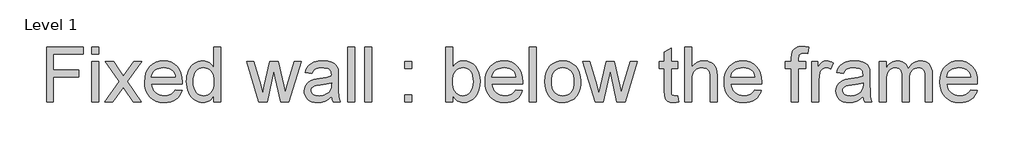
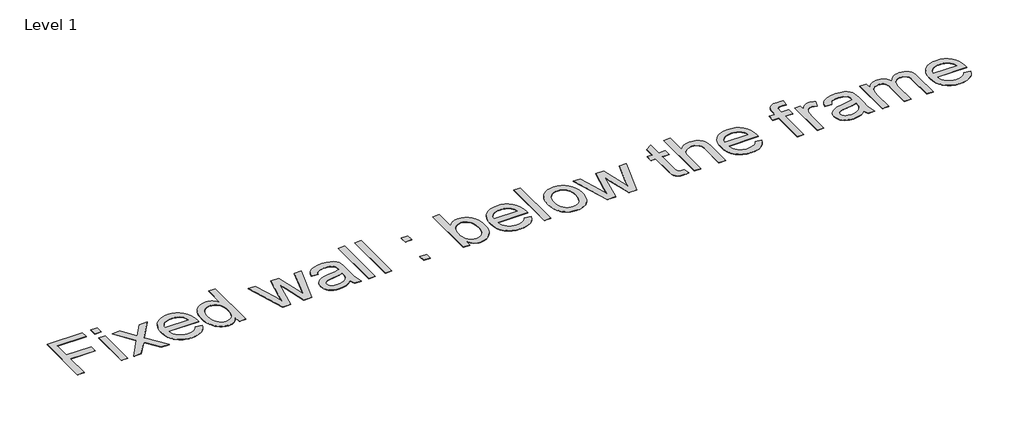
# One storey, part 32 of 80: 1 proxy.
"""IFC4 building model written with IfcOpenShell, lengths in millimetres."""

import ifcopenshell
import ifcopenshell.guid

model = None  # the IFC model being written
_history = None  # IfcOwnerHistory: only IFC2X3 demands one
_inside = {}  # id of a spatial element -> (the spatial element, [elements in it])
_under = {}  # id of a project, library or spatial element -> (it, [spatial elements below it])
_declared = {}  # id of a project -> (the project, [libraries it declares])
_typed = {}  # id of a type object -> (the type object, [elements of that type])
_made_of = {}  # id of a material, layer set ... -> (it, [elements and type objects made of it])


def new_model(schema):
    """Start an empty IFC model of exactly this schema.

    Asked for "IFC4X3", IfcOpenShell would pick the latest addendum, in which some entities
    have other attributes; the version numbers below select the first issue.
    IFC2X3 requires an IfcOwnerHistory on every rooted entity: one is made here for all.
    """
    global model, _history
    if schema == "IFC4X3":
        model = ifcopenshell.file(schema_version=(4, 3, 0, 0))
    else:
        model = ifcopenshell.file(schema=schema)
    _inside.clear()
    _under.clear()
    _declared.clear()
    _typed.clear()
    _made_of.clear()
    _history = None
    if model.schema == "IFC2X3":
        org = make("IfcOrganization", Name="unknown")
        user = make(
            "IfcPersonAndOrganization",
            ThePerson=make("IfcPerson", FamilyName="unknown"),
            TheOrganization=org,
        )
        app = make(
            "IfcApplication",
            ApplicationDeveloper=org,
            Version="unknown",
            ApplicationFullName="unknown",
            ApplicationIdentifier="unknown",
        )
        _history = make(
            "IfcOwnerHistory",
            OwningUser=user,
            OwningApplication=app,
            ChangeAction="ADDED",
            CreationDate=0,
        )
    return model


def make(cls, **values):
    """One entity of the class cls with the attributes given. An attribute that is None is left unset."""
    return model.create_entity(
        cls, **{name: value for name, value in values.items() if value is not None}
    )


def rooted(cls, **values):
    """An entity with a GlobalId (a new one), such as an element, a storey or a relation."""
    return make(cls, GlobalId=ifcopenshell.guid.new(), OwnerHistory=_history, **values)


def si_unit(unit_type, name, prefix=None):
    """IfcSIUnit, for example si_unit("LENGTHUNIT", "METRE", prefix="MILLI")."""
    return make("IfcSIUnit", UnitType=unit_type, Prefix=prefix, Name=name)


def assignment(units):
    """IfcUnitAssignment: the units of a project."""
    return None if units is None else make("IfcUnitAssignment", Units=units)


def point(xyz):
    """IfcCartesianPoint."""
    return None if xyz is None else make("IfcCartesianPoint", Coordinates=xyz)


def direction(xyz):
    """IfcDirection."""
    return None if xyz is None else make("IfcDirection", DirectionRatios=xyz)


def frame(location, z_axis=None, x_axis=None):
    """IfcAxis2Placement3D, a coordinate frame: its origin and axes. An axis left out is left unset."""
    return make(
        "IfcAxis2Placement3D",
        Location=point(location),
        Axis=direction(z_axis),
        RefDirection=direction(x_axis),
    )


def origin():
    """The frame at (0, 0, 0) with its axes left unset."""
    return frame((0.0, 0.0, 0.0))


def origin_with_axes():
    """The frame at (0, 0, 0) with the z axis (0, 0, 1) and the x axis (1, 0, 0) written out."""
    return frame((0.0, 0.0, 0.0), z_axis=(0.0, 0.0, 1.0), x_axis=(1.0, 0.0, 0.0))


def place(relative_to, where):
    """IfcLocalPlacement: puts the frame where relative to a parent placement (None: the world)."""
    return make(
        "IfcLocalPlacement", PlacementRelTo=relative_to, RelativePlacement=where
    )


def context(
    kind, dimensions, precision=None, world=None, true_north=None, identifier=None
):
    """IfcGeometricRepresentationContext, for example the 3D "Model" context."""
    return make(
        "IfcGeometricRepresentationContext",
        ContextIdentifier=identifier,
        ContextType=kind,
        CoordinateSpaceDimension=dimensions,
        Precision=precision,
        WorldCoordinateSystem=world,
        TrueNorth=true_north,
    )


def project(units=None, contexts=None):
    """IfcProject with its units and contexts."""
    return rooted(
        "IfcProject",
        Name="project",
        RepresentationContexts=contexts,
        UnitsInContext=assignment(units),
    )


def spatial(cls, under=None, at=None, **own):
    """A site, building, storey or space (cls), placed at a placement, below another one or the project."""
    s = rooted(cls, ObjectPlacement=at, **own)
    if under is not None:
        _under.setdefault(under.id(), (under, []))[1].append(s)
    return s


def polyline(points):
    """IfcPolyline through the points."""
    return make("IfcPolyline", Points=[point(p) for p in points])


def outline(outer, holes=None, kind="AREA"):
    """IfcArbitraryClosedProfileDef: a profile drawn as a closed curve; with holes, ...WithVoids."""
    if holes is None:
        return make("IfcArbitraryClosedProfileDef", ProfileType=kind, OuterCurve=outer)
    return make(
        "IfcArbitraryProfileDefWithVoids",
        ProfileType=kind,
        OuterCurve=outer,
        InnerCurves=holes,
    )


def extrude(swept, where, along, depth):
    """IfcExtrudedAreaSolid: the profile swept, set in the frame where, extruded along a direction by depth."""
    return make(
        "IfcExtrudedAreaSolid",
        SweptArea=swept,
        Position=where,
        ExtrudedDirection=direction(along),
        Depth=depth,
    )


def shape(context_of_items, identifier, shape_type, items):
    """IfcShapeRepresentation: the items that make up one representation, for example the "Body"."""
    return make(
        "IfcShapeRepresentation",
        ContextOfItems=context_of_items,
        RepresentationIdentifier=identifier,
        RepresentationType=shape_type,
        Items=items,
    )


def made_of(thing, what):
    """Note that an element or type object is made of a material, layer set ...; save() writes the relation."""
    if what is not None:
        _made_of.setdefault(what.id(), (what, []))[1].append(thing)
    return thing


def element(
    cls,
    number,
    at=None,
    inside=None,
    cuts=None,
    type_object=None,
    material=None,
    context=None,
    identifier="Body",
    shape_type=None,
    held_by="IfcProductDefinitionShape",
    body=None,
    shapes=None,
    **own,
):
    """One element of the class cls, such as IfcWall. Its Tag is "e" and its number.

    at: its placement. inside: the storey or other place that contains it. cuts: it is an
    opening in that element (IfcRelVoidsElement). A single representation is given by context,
    identifier, shape_type and body (its items); several are given by shapes. held_by: the class
    of the entity that holds the representations. save() writes the other relations.
    """
    e = rooted(cls, Tag="e%d" % number, ObjectPlacement=at, **own)
    if body is not None:
        shapes = [shape(context, identifier, shape_type, body)]
    if shapes is not None:
        e.Representation = make(held_by, Representations=shapes)
    if inside is not None:
        _inside.setdefault(inside.id(), (inside, []))[1].append(e)
    if cuts is not None:
        rooted(
            "IfcRelVoidsElement", RelatingBuildingElement=cuts, RelatedOpeningElement=e
        )
    if type_object is not None:
        _typed.setdefault(type_object.id(), (type_object, []))[1].append(e)
    return made_of(e, material)


def aggregate(whole, parts):
    """IfcRelAggregates: a whole, such as a stair, and the parts it consists of."""
    return rooted("IfcRelAggregates", RelatingObject=whole, RelatedObjects=parts)


def save(model, path):
    """Write the relations noted so far, then the file.

    IfcRelAggregates (storeys below a building ...), IfcRelContainedInSpatialStructure (elements
    in a storey), IfcRelDefinesByType, IfcRelAssociatesMaterial and IfcRelDeclares: one each for
    every whole, place, type object, material and project.
    """
    for whole, parts in _under.values():
        aggregate(whole, parts)
    for where, things in _inside.values():
        rooted(
            "IfcRelContainedInSpatialStructure",
            RelatedElements=things,
            RelatingStructure=where,
        )
    for kind, things in _typed.values():
        rooted("IfcRelDefinesByType", RelatedObjects=things, RelatingType=kind)
    for what, things in _made_of.values():
        rooted("IfcRelAssociatesMaterial", RelatedObjects=things, RelatingMaterial=what)
    for by, libraries in _declared.values():
        rooted("IfcRelDeclares", RelatingContext=by, RelatedDefinitions=libraries)
    model.write(path)


model = new_model("IFC4")

# Units and contexts
model_context = context("Model", 3, world=origin())
ifc_project = project(units=[si_unit("LENGTHUNIT", "METRE", prefix="MILLI")], contexts=[model_context])

# Site, building, storey
site = spatial("IfcSite", under=ifc_project)
building = spatial("IfcBuilding", under=site)
storey = spatial("IfcBuildingStorey", under=building, Name="Level 1", Elevation=0.0)

# Proxy
placement = place(None, origin())
element("IfcBuildingElementProxy", 1, Name="800mm Arial", ObjectType="800mm Arial", at=placement, inside=storey, context=model_context, shape_type="SweptSolid", body=[
    extrude(outline(polyline([(378274.7728809, -25390.2605409), (378274.7728809, -24590.8718426), (378811.8621626, -24590.8718426), (378811.8621626, -24690.7954299), (378374.6964682, -24690.7954299), (378374.6964682, -24928.1139497), (378749.4099205, -24928.1139497), (378749.4099205, -25028.037537), (378374.6964682, -25028.037537), (378374.6964682, -25390.2605409), (378274.7728809, -25390.2605409)])), origin_with_axes(), (0.0, 0.0, 1.0), 5.0),
    extrude(outline(polyline([(378936.7666467, -24690.7954299), (378936.7666467, -24590.8718426), (379036.690234, -24590.8718426), (379036.690234, -24690.7954299), (378936.7666467, -24690.7954299)])), origin_with_axes(), (0.0, 0.0, 1.0), 5.0),
    extrude(outline(polyline([(378936.7666467, -25390.2605409), (378936.7666467, -24803.2094656), (379036.690234, -24803.2094656), (379036.690234, -25390.2605409), (378936.7666467, -25390.2605409)])), origin_with_axes(), (0.0, 0.0, 1.0), 5.0),
    extrude(outline(polyline([(379124.1233729, -25390.2605409), (379337.6319754, -25095.1736972), (379136.6138213, -24803.2094656), (379256.8343872, -24803.2094656), (379353.8305257, -24943.7270102), (379399.1084012, -25010.0825174), (379438.3362157, -24955.8271321), (379548.7986189, -24803.2094656), (379669.0191848, -24803.2094656), (379457.8525414, -25095.1736972), (379661.2126546, -25390.2605409), (379540.9920886, -25390.2605409), (379418.6247268, -25212.8571408), (379396.1809523, -25180.4600402), (379244.3439388, -25390.2605409), (379124.1233729, -25390.2605409)])), origin_with_axes(), (0.0, 0.0, 1.0), 5.0),
    extrude(outline(polyline([(380159.6596115, -25215.3942631), (380257.6315662, -25227.8847116), (380242.6100943, -25267.1247238), (380222.3314122, -25301.7052133), (380196.7955199, -25331.6261801), (380166.0024173, -25356.8876241), (380130.2692448, -25376.9528464), (380089.9131427, -25391.285148), (380044.934111, -25399.884529), (379995.3321496, -25402.7509893), (379933.3312226, -25397.8048205), (379878.0878233, -25382.9663142), (379829.6019518, -25358.2354703), (379787.873608, -25323.6122888), (379754.3177256, -25280.0603884), (379730.3492382, -25228.5433875), (379715.9681457, -25169.0612863), (379711.1744482, -25101.6140846), (379716.0169365, -25031.8798136), (379730.5444014, -24970.4155855), (379754.7568429, -24917.2214004), (379770.4949299, -24893.725574), (379788.654261, -24872.2972583), (379830.2728255, -24836.6067778), (379877.6487059, -24811.1135774), (379930.7819025, -24795.8176572), (379989.6724151, -24790.7190172), (380046.6661849, -24795.8054595), (380098.2075811, -24811.0647866), (380144.2966039, -24836.4969985), (380184.9332532, -24872.1020951), (380218.1049079, -24916.9286555), (380241.798947, -24970.025259), (380256.0153705, -25031.3919054), (380260.7541783, -25101.0285949), (380260.1686886, -25127.9611243), (379811.0980355, -25127.9611243), (379816.8858458, -25167.8354171), (379828.3943791, -25202.7574423), (379845.6236353, -25232.7271999), (379868.5736145, -25257.7446898), (379895.9757555, -25277.4683764), (379926.5614971, -25291.556724), (379960.3308393, -25300.0097325), (379997.2837821, -25302.827402), (380050.4657695, -25297.6067849), (380095.2557369, -25281.9449336), (380114.503713, -25269.954591), (380131.6536842, -25254.8660318), (380146.7056503, -25236.6792558), (380159.6596115, -25215.3942631)]), holes=[polyline([(379811.0980355, -25028.037537), (380160.830591, -25028.037537), (380155.6953578, -24999.7632602), (380147.3155355, -24975.2458761), (380135.6911241, -24954.4853847), (380120.8221235, -24937.481786), (380093.5724538, -24916.9896441), (380062.5658914, -24902.3523998), (380027.8024364, -24893.5700533), (379989.2820886, -24890.6426044), (379954.1466036, -24892.9784647), (379921.9263698, -24899.9860453), (379892.621387, -24911.6653465), (379866.2316554, -24928.0163681), (379844.0867247, -24948.2828525), (379827.5161445, -24971.7085421), (379816.5199147, -24998.2934369), (379811.0980355, -25028.037537)])]), origin_with_axes(), (0.0, 0.0, 1.0), 5.0),
    extrude(outline(polyline([(380722.9007696, -25390.2605409), (380722.9007696, -25295.9966881), (380693.0041982, -25342.7016949), (380675.6865086, -25361.0500904), (380656.7892164, -25376.062414), (380636.3123216, -25387.7386657), (380614.2558242, -25396.0788455), (380590.6197242, -25401.0829534), (380565.4040216, -25402.7509893), (380532.4214313, -25400.335844), (380500.8049837, -25393.0904081), (380470.554679, -25381.0146816), (380441.670517, -25364.1086645), (380415.0551279, -25342.8785616), (380391.6111418, -25317.8305774), (380371.3385585, -25288.964712), (380354.2373782, -25256.2809654), (380340.6613341, -25220.4014204), (380330.9641598, -25181.9481601), (380325.1458552, -25140.9211843), (380323.2064204, -25097.320493), (380324.9933839, -25054.5187513), (380330.3542746, -25013.7418284), (380339.2890925, -24974.9897243), (380351.7978374, -24938.262439), (380367.8744107, -24904.6333704), (380387.5127134, -24875.1759164), (380410.7127455, -24849.890077), (380437.474507, -24828.7758522), (380466.852676, -24812.1259868), (380497.9019303, -24800.2332259), (380530.62227, -24793.0975693), (380565.0136951, -24790.7190172), (380590.1653598, -24792.4205968), (380613.9020908, -24797.5253357), (380636.2238883, -24806.0332339), (380657.1307521, -24817.9442914), (380693.7726535, -24849.2435987), (380722.9007696, -24888.6909719), (380722.9007696, -24590.8718426), (380822.8243568, -24590.8718426), (380822.8243568, -25390.2605409), (380722.9007696, -25390.2605409)]), holes=[polyline([(380423.1300077, -25096.9301665), (380425.9476772, -25145.3855438), (380434.4006857, -25187.3151496), (380448.4890333, -25222.7189841), (380468.2127199, -25251.5970472), (380491.7664854, -25274.0103274), (380517.3450697, -25290.0198133), (380544.9484728, -25299.6255049), (380574.5766947, -25302.827402), (380604.3451901, -25299.7718773), (380631.7839242, -25290.6053031), (380656.8928969, -25275.3276794), (380679.6721083, -25253.9390063), (380698.5846476, -25226.2685158), (380712.0936042, -25192.1454402), (380720.1989782, -25151.5697794), (380722.9007696, -25104.5415335), (380720.1501874, -25052.9818407), (380711.898441, -25008.7651654), (380698.1455302, -24971.8915076), (380678.8914552, -24942.3608674), (380655.612138, -24919.7341274), (380629.7835008, -24903.5721702), (380601.4055436, -24893.8749959), (380570.4782663, -24890.6426044), (380540.2645546, -24893.74692), (380512.6611516, -24903.0598666), (380487.668057, -24918.5814444), (380465.2852711, -24940.3116532), (380446.8423433, -24968.7262036), (380433.6688235, -25004.3008059), (380425.7647116, -25047.0354602), (380423.1300077, -25096.9301665)])]), origin_with_axes(), (0.0, 0.0, 1.0), 5.0),
    extrude(outline(polyline([(381382.357413, -25390.2605409), (381203.7830334, -24803.2094656), (381307.6098858, -24803.2094656), (381408.8996159, -25145.7209806), (381439.1499207, -25268.0883424), (381463.9356542, -25150.2097355), (381544.5380791, -24803.2094656), (381663.5876656, -24803.2094656), (381743.7997639, -25149.2339192), (381765.8532119, -25255.9882205), (381797.4696595, -25143.3790215), (381898.9545528, -24803.2094656), (382003.1717317, -24803.2094656), (381823.2312093, -25390.2605409), (381702.4251536, -25390.2605409), (381625.7259938, -25045.9925566), (381603.4773826, -24938.6527655), (381504.5296116, -25390.2605409), (381382.357413, -25390.2605409)])), origin_with_axes(), (0.0, 0.0, 1.0), 5.0),
    extrude(outline(polyline([(382446.5826504, -25315.3178504), (382398.8408387, -25356.2533435), (382374.4393328, -25371.415089), (382349.6840935, -25383.0395004), (382297.990226, -25397.8231171), (382242.6370474, -25402.7509893), (382198.1459238, -25399.7869474), (382159.131569, -25390.8948215), (382125.5939832, -25376.0746117), (382097.5331662, -25355.326318), (382075.3760378, -25329.9672924), (382059.5495174, -25301.3148868), (382050.0536052, -25269.3691013), (382046.8883012, -25234.1299358), (382051.669801, -25192.7065346), (382066.0143003, -25155.0888169), (382088.1409345, -25122.8868796), (382116.2688388, -25097.7108195), (382149.3246154, -25078.682402), (382186.2348663, -25064.9233924), (382272.6921889, -25049.8958217), (382374.8601536, -25034.0875979), (382445.9971606, -25015.5470886), (382446.5826504, -24993.2984773), (382444.8627742, -24969.0738381), (382439.7031456, -24948.7036732), (382431.1037646, -24932.1879827), (382419.0646312, -24919.5267664), (382398.255349, -24906.8899455), (382372.9085211, -24897.8636449), (382343.0241474, -24892.4478646), (382308.6022281, -24890.6426044), (382249.0774348, -24895.4484996), (382226.0481706, -24901.4558686), (382207.5076612, -24909.8661852), (382192.2727295, -24921.3381254), (382179.1601982, -24936.5303651), (382168.1700674, -24955.4429044), (382159.3023369, -24978.0757433), (382059.3787496, -24965.5852949), (382076.723884, -24910.9395831), (382088.5983484, -24888.0079005), (382102.6074109, -24868.0036667), (382119.3548578, -24850.5243575), (382139.4444755, -24835.1674488), (382162.876264, -24821.9329405), (382189.6502233, -24810.8208326), (382251.0534628, -24795.744471), (382321.483003, -24790.7190172), (382389.0338851, -24795.1589812), (382442.5818036, -24808.4788735), (382482.9562023, -24828.5075027), (382510.986525, -24853.0736776), (382529.5758252, -24883.4459594), (382541.6271562, -24920.8929092), (382545.2864673, -24955.4368056), (382546.5062376, -25008.3260481), (382546.5062376, -25132.6450424), (382547.7747988, -25240.9362543), (382551.5804823, -25306.242759), (382559.0942677, -25349.15428), (382571.4871345, -25390.2605409), (382471.5635472, -25390.2605409), (382455.5601601, -25355.5214813), (382446.5826504, -25315.3178504)]), holes=[polyline([(382446.5826504, -25115.4706759), (382379.4464901, -25132.1083435), (382285.3778005, -25146.1113071), (382233.5375606, -25153.7714649), (382199.4083861, -25162.3098574), (382177.0377978, -25173.3853722), (382160.4733164, -25188.656897), (382150.2272455, -25206.9534523), (382146.8118885, -25227.1040585), (382148.6720383, -25242.6317351), (382154.2524876, -25256.8176643), (382163.5532366, -25269.6618461), (382176.5742851, -25281.1642806), (382193.1936561, -25290.6418962), (382213.2893727, -25297.4116217), (382263.9098423, -25302.827402), (382317.5797379, -25296.8505273), (382342.0727265, -25289.3794339), (382365.0044092, -25278.9199031), (382403.4515707, -25252.4996773), (382430.1889368, -25221.0539976), (382442.0451046, -25188.656897), (382445.9971606, -25143.769348), (382446.5826504, -25115.4706759)])]), origin_with_axes(), (0.0, 0.0, 1.0), 5.0),
    extrude(outline(polyline([(382683.9011702, -25390.2605409), (382683.9011702, -24590.8718426), (382783.8247575, -24590.8718426), (382783.8247575, -25390.2605409), (382683.9011702, -25390.2605409)])), origin_with_axes(), (0.0, 0.0, 1.0), 5.0),
    extrude(outline(polyline([(382933.7101384, -25390.2605409), (382933.7101384, -24590.8718426), (383033.6337257, -24590.8718426), (383033.6337257, -25390.2605409), (382933.7101384, -25390.2605409)])), origin_with_axes(), (0.0, 0.0, 1.0), 5.0),
    extrude(outline(polyline([(383520.7612138, -24903.1330529), (383520.7612138, -24803.2094656), (383620.684801, -24803.2094656), (383620.684801, -24903.1330529), (383520.7612138, -24903.1330529)])), origin_with_axes(), (0.0, 0.0, 1.0), 5.0),
    extrude(outline(polyline([(383520.7612138, -25390.2605409), (383520.7612138, -25290.3369536), (383620.684801, -25290.3369536), (383620.684801, -25390.2605409), (383520.7612138, -25390.2605409)])), origin_with_axes(), (0.0, 0.0, 1.0), 5.0),
    extrude(outline(polyline([(384220.2263248, -25390.2605409), (384120.3027375, -25390.2605409), (384120.3027375, -24590.8718426), (384220.2263248, -24590.8718426), (384220.2263248, -24887.3248291), (384253.0869381, -24845.0597864), (384290.1923522, -24814.8704701), (384310.3368596, -24804.3042095), (384331.5425672, -24796.7568804), (384377.137583, -24790.7190172), (384428.6118919, -24796.1591929), (384477.2563335, -24812.4797202), (384520.2898316, -24838.655992), (384554.9313096, -24873.6634011), (384582.0833976, -24917.1604119), (384602.6487258, -24968.8054886), (384615.6026869, -25026.4518355), (384619.920674, -25087.9526567), (384615.4502156, -25158.9188958), (384602.0388406, -25221.3467425), (384579.6865489, -25275.2361966), (384548.3933405, -25320.5872584), (384510.8305125, -25356.5338907), (384469.6693619, -25382.2100566), (384424.9098888, -25397.6157561), (384376.5520932, -25402.7509893), (384352.3366023, -25401.0951511), (384329.4567599, -25396.1276363), (384307.912566, -25387.848445), (384287.7040207, -25376.2575773), (384268.8311239, -25361.355033), (384251.2938757, -25343.1408122), (384220.2263248, -25296.7773411), (384220.2263248, -25390.2605409)]), holes=[polyline([(384220.2263248, -25092.6365749), (384221.9340033, -25137.6704963), (384227.0570388, -25175.9712853), (384235.5954312, -25207.5389421), (384247.5491807, -25232.3734665), (384271.7616222, -25263.1970633), (384299.9017242, -25285.2139181), (384331.9694868, -25298.4240311), (384367.9649099, -25302.827402), (384397.8492836, -25299.5828129), (384425.6356522, -25289.8490455), (384451.3240158, -25273.6260998), (384474.9143744, -25250.9139758), (384494.638061, -25221.7736621), (384508.7264086, -25186.2661471), (384517.1794172, -25144.3914309), (384519.9970867, -25096.1495135), (384517.2952953, -25046.9927683), (384509.1899214, -25004.7155278), (384495.6809647, -24969.3177922), (384476.7684254, -24940.7995613), (384454.0258072, -24918.8558927), (384429.0266138, -24903.1818437), (384401.7708452, -24893.7774143), (384372.2585016, -24890.6426044), (384342.3741279, -24893.8871936), (384314.5877593, -24903.620961), (384288.8993957, -24919.8439067), (384265.309037, -24942.5560307), (384245.5853504, -24971.4035995), (384231.4970029, -25006.0328798), (384223.0439943, -25046.4438716), (384220.2263248, -25092.6365749)])]), origin_with_axes(), (0.0, 0.0, 1.0), 5.0),
    extrude(outline(polyline([(385143.3485277, -25215.3942631), (385241.3204824, -25227.8847116), (385226.2990106, -25267.1247238), (385206.0203284, -25301.7052133), (385180.4844361, -25331.6261801), (385149.6913336, -25356.8876241), (385113.9581611, -25376.9528464), (385073.602059, -25391.285148), (385028.6230272, -25399.884529), (384979.0210658, -25402.7509893), (384917.0201388, -25397.8048205), (384861.7767395, -25382.9663142), (384813.290868, -25358.2354703), (384771.5625242, -25323.6122888), (384738.0066418, -25280.0603884), (384714.0381544, -25228.5433875), (384699.6570619, -25169.0612863), (384694.8633644, -25101.6140846), (384699.7058527, -25031.8798136), (384714.2333176, -24970.4155855), (384738.4457591, -24917.2214004), (384754.1838461, -24893.725574), (384772.3431772, -24872.2972583), (384813.9617417, -24836.6067778), (384861.3376222, -24811.1135774), (384914.4708187, -24795.8176572), (384973.3613314, -24790.7190172), (385030.3551011, -24795.8054595), (385081.8964974, -24811.0647866), (385127.9855201, -24836.4969985), (385168.6221694, -24872.1020951), (385201.7938242, -24916.9286555), (385225.4878633, -24970.025259), (385239.7042867, -25031.3919054), (385244.4430946, -25101.0285949), (385243.8576048, -25127.9611243), (384794.7869517, -25127.9611243), (384800.5747621, -25167.8354171), (384812.0832953, -25202.7574423), (384829.3125516, -25232.7271999), (384852.2625308, -25257.7446898), (384879.6646717, -25277.4683764), (384910.2504133, -25291.556724), (384944.0197555, -25300.0097325), (384980.9726984, -25302.827402), (385034.1546857, -25297.6067849), (385078.9446531, -25281.9449336), (385098.1926293, -25269.954591), (385115.3426004, -25254.8660318), (385130.3945666, -25236.6792558), (385143.3485277, -25215.3942631)]), holes=[polyline([(384794.7869517, -25028.037537), (385144.5195073, -25028.037537), (385139.3842741, -24999.7632602), (385131.0044517, -24975.2458761), (385119.3800403, -24954.4853847), (385104.5110397, -24937.481786), (385077.26137, -24916.9896441), (385046.2548076, -24902.3523998), (385011.4913526, -24893.5700533), (384972.9710049, -24890.6426044), (384937.8355198, -24892.9784647), (384905.615286, -24899.9860453), (384876.3103033, -24911.6653465), (384849.9205717, -24928.0163681), (384827.7756409, -24948.2828525), (384811.2050607, -24971.7085421), (384800.208831, -24998.2934369), (384794.7869517, -25028.037537)])]), origin_with_axes(), (0.0, 0.0, 1.0), 5.0),
    extrude(outline(polyline([(385344.3666818, -25390.2605409), (385344.3666818, -24590.8718426), (385444.2902691, -24590.8718426), (385444.2902691, -25390.2605409), (385344.3666818, -25390.2605409)])), origin_with_axes(), (0.0, 0.0, 1.0), 5.0),
    extrude(outline(polyline([(385569.1947533, -25096.7350032), (385574.5983359, -25020.7067172), (385581.3528142, -24986.6354818), (385590.8090839, -24955.1928515), (385602.9671449, -24926.3788264), (385617.8269972, -24900.1934063), (385635.3886409, -24876.6365914), (385655.6520759, -24855.7083815), (385693.7333063, -24827.2755346), (385735.7665926, -24806.9663582), (385781.7519349, -24794.7808524), (385831.6893332, -24790.7190172), (385886.8168542, -24795.6651859), (385936.6627697, -24810.5036923), (385981.2270795, -24835.2345362), (386020.5097837, -24869.8577176), (386052.5714475, -24913.2022571), (386075.4726358, -24964.0971751), (386089.2133489, -25022.5424715), (386093.7935865, -25088.5381465), (386091.7687678, -25142.0250764), (386085.6943114, -25189.4863409), (386075.5702175, -25230.9219397), (386061.396486, -25266.3318731), (386043.3499836, -25296.9176147), (386021.6075771, -25323.8806383), (385996.1692664, -25347.220944), (385967.0350515, -25366.9385318), (385935.3393189, -25382.6064819), (385902.2164549, -25393.7978749), (385867.6664597, -25400.5127107), (385831.6893332, -25402.7509893), (385775.7567636, -25397.8231171), (385725.4473354, -25383.0395004), (385680.7610486, -25358.4001393), (385641.697903, -25323.9050337), (385609.977775, -25280.1396735), (385587.3205407, -25227.6895483), (385573.7262001, -25166.5546582), (385569.1947533, -25096.7350032)]), holes=[polyline([(385669.1183405, -25096.53984), (385672.0091963, -25145.0074149), (385680.6817635, -25186.9736139), (385695.1360422, -25222.4384369), (385715.3720323, -25251.401884), (385739.986998, -25273.9005481), (385767.5782034, -25289.9710225), (385798.1456485, -25299.6133071), (385831.6893332, -25302.827402), (385865.06225, -25299.5950106), (385895.507718, -25289.8978363), (385923.0257372, -25273.7358791), (385947.6163075, -25251.1091391), (385967.8522976, -25221.859046), (385982.3065763, -25185.8270298), (385990.9791435, -25143.0130904), (385993.8699992, -25093.4172279), (385990.960847, -25046.4865636), (385982.2333901, -25005.6181579), (385967.6876286, -24970.8120109), (385947.3235626, -24942.0681225), (385922.6415095, -24919.5694584), (385895.1417869, -24903.498984), (385864.8243948, -24893.8566993), (385831.6893332, -24890.6426044), (385798.1456485, -24893.8445016), (385767.5782034, -24903.4501931), (385739.986998, -24919.459679), (385715.3720323, -24941.8729593), (385695.1360422, -24970.7510224), (385680.6817635, -25006.1548568), (385672.0091963, -25048.0844627), (385669.1183405, -25096.53984)])]), origin_with_axes(), (0.0, 0.0, 1.0), 5.0),
    extrude(outline(polyline([(386303.5940872, -25390.2605409), (386125.0197076, -24803.2094656), (386228.84656, -24803.2094656), (386330.1362901, -25145.7209806), (386360.3865948, -25268.0883424), (386385.1723284, -25150.2097355), (386465.7747533, -24803.2094656), (386584.8243397, -24803.2094656), (386665.0364381, -25149.2339192), (386687.0898861, -25255.9882205), (386718.7063336, -25143.3790215), (386820.191227, -24803.2094656), (386924.4084059, -24803.2094656), (386744.4678835, -25390.2605409), (386623.6618277, -25390.2605409), (386546.962668, -25045.9925566), (386524.7140567, -24938.6527655), (386425.7662857, -25390.2605409), (386303.5940872, -25390.2605409)])), origin_with_axes(), (0.0, 0.0, 1.0), 5.0),
    extrude(outline(polyline([(387517.7047055, -25306.9258304), (387530.1951539, -25393.1879898), (387490.6258036, -25400.3602394), (387455.4476267, -25402.7509893), (387407.4862564, -25398.6037701), (387371.7225896, -25386.1621125), (387346.4489479, -25366.9873226), (387329.9576528, -25342.6407063), (387320.8825613, -25300.8269786), (387317.8575309, -25229.2508544), (387317.8575309, -24903.1330529), (387242.9148404, -24903.1330529), (387242.9148404, -24803.2094656), (387317.8575309, -24803.2094656), (387317.8575309, -24660.5451251), (387417.7811182, -24601.8009849), (387417.7811182, -24803.2094656), (387517.7047055, -24803.2094656), (387517.7047055, -24903.1330529), (387417.7811182, -24903.1330529), (387417.7811182, -25226.3234055), (387419.0984701, -25259.2084142), (387423.0505261, -25277.8465052), (387429.9544263, -25288.1657624), (387440.127311, -25296.0942697), (387454.5449966, -25301.1441189), (387474.1832993, -25302.827402), (387517.7047055, -25306.9258304)])), origin_with_axes(), (0.0, 0.0, 1.0), 5.0),
    extrude(outline(polyline([(387617.6282928, -25390.2605409), (387617.6282928, -24590.8718426), (387717.55188, -24590.8718426), (387717.55188, -24884.7877068), (387754.25477, -24843.6326551), (387795.4708102, -24814.2361896), (387841.2000007, -24796.5983103), (387891.4423415, -24790.7190172), (387922.6806603, -24792.3230152), (387951.7965786, -24797.1350092), (387978.7900965, -24805.1549993), (388003.661214, -24816.3829854), (388025.7756505, -24830.4408387), (388044.4991254, -24846.9504304), (388059.8316387, -24865.9117605), (388071.7731905, -24887.3248291), (388080.7385026, -24912.5130869), (388087.1422969, -24942.7999847), (388092.2653324, -25018.6697007), (388092.2653324, -25390.2605409), (387992.3417451, -25390.2605409), (387992.3417451, -25029.0133533), (387990.3535194, -24995.2745053), (387984.3888424, -24966.4635296), (387974.447714, -24942.5804261), (387960.5301343, -24923.6251948), (387942.9654412, -24909.1953115), (387922.0829728, -24898.888252), (387897.882729, -24892.7040163), (387870.3647098, -24890.6426044), (387828.1362602, -24896.2047573), (387788.4937238, -24912.8912157), (387770.6972743, -24925.0035353), (387755.6575059, -24939.0918829), (387743.3744184, -24955.1562584), (387733.848012, -24973.1966619), (387721.625913, -25018.5233282), (387717.55188, -25078.3896571), (387717.55188, -25390.2605409), (387617.6282928, -25390.2605409)])), origin_with_axes(), (0.0, 0.0, 1.0), 5.0),
    extrude(outline(polyline([(388640.674083, -25215.3942631), (388738.6460377, -25227.8847116), (388723.6245658, -25267.1247238), (388703.3458837, -25301.7052133), (388677.8099914, -25331.6261801), (388647.0168888, -25356.8876241), (388611.2837163, -25376.9528464), (388570.9276142, -25391.285148), (388525.9485824, -25399.884529), (388476.3466211, -25402.7509893), (388414.345694, -25397.8048205), (388359.1022947, -25382.9663142), (388310.6164232, -25358.2354703), (388268.8880795, -25323.6122888), (388235.3321971, -25280.0603884), (388211.3637096, -25228.5433875), (388196.9826172, -25169.0612863), (388192.1889197, -25101.6140846), (388197.031408, -25031.8798136), (388211.5588729, -24970.4155855), (388235.7713144, -24917.2214004), (388251.5094014, -24893.725574), (388269.6687325, -24872.2972583), (388311.2872969, -24836.6067778), (388358.6631774, -24811.1135774), (388411.796374, -24795.8176572), (388470.6868866, -24790.7190172), (388527.6806563, -24795.8054595), (388579.2220526, -24811.0647866), (388625.3110754, -24836.4969985), (388665.9477247, -24872.1020951), (388699.1193794, -24916.9286555), (388722.8134185, -24970.025259), (388737.029842, -25031.3919054), (388741.7686498, -25101.0285949), (388741.18316, -25127.9611243), (388292.112507, -25127.9611243), (388297.9003173, -25167.8354171), (388309.4088506, -25202.7574423), (388326.6381068, -25232.7271999), (388349.588086, -25257.7446898), (388376.990227, -25277.4683764), (388407.5759686, -25291.556724), (388441.3453108, -25300.0097325), (388478.2982536, -25302.827402), (388531.480241, -25297.6067849), (388576.2702083, -25281.9449336), (388595.5181845, -25269.954591), (388612.6681557, -25254.8660318), (388627.7201218, -25236.6792558), (388640.674083, -25215.3942631)]), holes=[polyline([(388292.112507, -25028.037537), (388641.8450625, -25028.037537), (388636.7098293, -24999.7632602), (388628.330007, -24975.2458761), (388616.7055955, -24954.4853847), (388601.8365949, -24937.481786), (388574.5869253, -24916.9896441), (388543.5803629, -24902.3523998), (388508.8169078, -24893.5700533), (388470.2965601, -24890.6426044), (388435.1610751, -24892.9784647), (388402.9408412, -24899.9860453), (388373.6358585, -24911.6653465), (388347.2461269, -24928.0163681), (388325.1011962, -24948.2828525), (388308.5306159, -24971.7085421), (388297.5343862, -24998.2934369), (388292.112507, -25028.037537)])]), origin_with_axes(), (0.0, 0.0, 1.0), 5.0),
    extrude(outline(polyline([(389178.9343442, -25390.2605409), (389178.9343442, -24903.1330529), (389091.5012053, -24903.1330529), (389091.5012053, -24803.2094656), (389178.9343442, -24803.2094656), (389178.9343442, -24744.0749989), (389181.5690482, -24695.1378123), (389189.47316, -24660.7402884), (389198.157925, -24643.2609792), (389209.5749755, -24627.513744), (389240.6059332, -24601.2154952), (389260.5857716, -24591.225576), (389284.0297578, -24584.0899194), (389310.9378918, -24579.8085255), (389341.3101736, -24578.3813942), (389384.6852073, -24581.1136797), (389432.4514143, -24589.3105365), (389417.8141701, -24682.9888996), (389360.2410094, -24678.3049814), (389322.2573606, -24682.4522006), (389308.1507165, -24687.6362246), (389297.3008592, -24694.8938582), (389289.2320783, -24704.9813591), (389283.4686634, -24718.6549847), (389278.8579315, -24756.7606105), (389278.8579315, -24803.2094656), (389391.2719672, -24803.2094656), (389391.2719672, -24903.1330529), (389278.8579315, -24903.1330529), (389278.8579315, -25390.2605409), (389178.9343442, -25390.2605409)])), origin_with_axes(), (0.0, 0.0, 1.0), 5.0),
    extrude(outline(polyline([(389478.7051061, -25390.2605409), (389478.7051061, -24803.2094656), (389566.138245, -24803.2094656), (389566.138245, -24890.0571147), (389598.4377639, -24839.7049945), (389613.6361025, -24822.2866739), (389628.2001605, -24810.0401795), (389658.0601387, -24795.5493077), (389690.6524026, -24790.7190172), (389715.4381361, -24792.6462543), (389740.419033, -24798.4279658), (389765.595093, -24808.0641516), (389790.9663164, -24821.5548117), (389757.5933995, -24911.1347464), (389722.4640134, -24895.7656399), (389687.3346272, -24890.6426044), (389657.4990444, -24895.5704767), (389630.8348645, -24910.3540933), (389609.29372, -24933.8712657), (389594.8272437, -24964.9998051), (389582.6783309, -25020.8164965), (389578.6286934, -25081.7074325), (389578.6286934, -25390.2605409), (389478.7051061, -25390.2605409)])), origin_with_axes(), (0.0, 0.0, 1.0), 5.0),
    extrude(outline(polyline([(390228.1320108, -25315.3178504), (390180.3901992, -25356.2533435), (390155.9886933, -25371.415089), (390131.233454, -25383.0395004), (390079.5395864, -25397.8231171), (390024.1864078, -25402.7509893), (389979.6952842, -25399.7869474), (389940.6809295, -25390.8948215), (389907.1433436, -25376.0746117), (389879.0825266, -25355.326318), (389856.9253982, -25329.9672924), (389841.0988779, -25301.3148868), (389831.6029657, -25269.3691013), (389828.4376616, -25234.1299358), (389833.2191614, -25192.7065346), (389847.5636607, -25155.0888169), (389869.6902949, -25122.8868796), (389897.8181993, -25097.7108195), (389930.8739758, -25078.682402), (389967.7842267, -25064.9233924), (390054.2415493, -25049.8958217), (390156.409514, -25034.0875979), (390227.546521, -25015.5470886), (390228.1320108, -24993.2984773), (390226.4121346, -24969.0738381), (390221.252506, -24948.7036732), (390212.653125, -24932.1879827), (390200.6139916, -24919.5267664), (390179.8047094, -24906.8899455), (390154.4578815, -24897.8636449), (390124.5735078, -24892.4478646), (390090.1515885, -24890.6426044), (390030.6267953, -24895.4484996), (390007.597531, -24901.4558686), (389989.0570216, -24909.8661852), (389973.8220899, -24921.3381254), (389960.7095587, -24936.5303651), (389949.7194278, -24955.4429044), (389940.8516973, -24978.0757433), (389840.92811, -24965.5852949), (389858.2732444, -24910.9395831), (389870.1477088, -24888.0079005), (389884.1567713, -24868.0036667), (389900.9042183, -24850.5243575), (389920.993836, -24835.1674488), (389944.4256244, -24821.9329405), (389971.1995837, -24810.8208326), (390032.6028232, -24795.744471), (390103.0323634, -24790.7190172), (390170.5832455, -24795.1589812), (390224.131164, -24808.4788735), (390264.5055627, -24828.5075027), (390292.5358854, -24853.0736776), (390311.1251856, -24883.4459594), (390323.1765167, -24920.8929092), (390326.8358277, -24955.4368056), (390328.0555981, -25008.3260481), (390328.0555981, -25132.6450424), (390329.3241592, -25240.9362543), (390333.1298427, -25306.242759), (390340.6436281, -25349.15428), (390353.0364949, -25390.2605409), (390253.1129076, -25390.2605409), (390237.1095206, -25355.5214813), (390228.1320108, -25315.3178504)]), holes=[polyline([(390228.1320108, -25115.4706759), (390160.9958506, -25132.1083435), (390066.927161, -25146.1113071), (390015.086921, -25153.7714649), (389980.9577465, -25162.3098574), (389958.5871582, -25173.3853722), (389942.0226768, -25188.656897), (389931.7766059, -25206.9534523), (389928.3612489, -25227.1040585), (389930.2213987, -25242.6317351), (389935.801848, -25256.8176643), (389945.102597, -25269.6618461), (389958.1236455, -25281.1642806), (389974.7430166, -25290.6418962), (389994.8387331, -25297.4116217), (390045.4592028, -25302.827402), (390099.1290983, -25296.8505273), (390123.622087, -25289.3794339), (390146.5537696, -25278.9199031), (390185.0009311, -25252.4996773), (390211.7382972, -25221.0539976), (390223.5944651, -25188.656897), (390227.546521, -25143.769348), (390228.1320108, -25115.4706759)])]), origin_with_axes(), (0.0, 0.0, 1.0), 5.0),
    extrude(outline(polyline([(390465.4505306, -25390.2605409), (390465.4505306, -24803.2094656), (390565.3741179, -24803.2094656), (390565.3741179, -24899.8152775), (390595.4292594, -24855.4400321), (390613.6770239, -24836.8568307), (390634.0715842, -24820.676577), (390656.2836023, -24807.5701446), (390679.9837402, -24798.2084071), (390705.171998, -24792.5913646), (390731.8483756, -24790.7190172), (390761.0130848, -24792.6279578), (390787.4211129, -24798.3547796), (390811.07246, -24807.8994826), (390831.9671262, -24821.2620668), (390850.0441228, -24838.0644034), (390865.2424614, -24857.9283636), (390877.562142, -24880.8539474), (390887.0031645, -24906.8411547), (390923.4255072, -24856.0377195), (390943.5578169, -24836.0792271), (390964.9708854, -24819.7495515), (390987.6647128, -24807.0486927), (391011.6392991, -24797.9766508), (391036.8946443, -24792.5334256), (391063.4307483, -24790.7190172), (391103.433117, -24793.7379488), (391138.5442066, -24802.7947436), (391168.7640171, -24817.8894018), (391194.0925485, -24839.0219231), (391214.1150788, -24866.4362618), (391228.4168862, -24900.3763719), (391236.9979706, -24940.8422533), (391239.8583321, -24987.8339061), (391239.8583321, -25390.2605409), (391139.9347448, -25390.2605409), (391139.9347448, -25030.7698226), (391137.6171812, -24980.930006), (391130.6644901, -24947.3375304), (391117.6373428, -24924.3326616), (391097.09641, -24906.255665), (391070.6761842, -24894.5458696), (391040.0111575, -24890.6426044), (391011.6941888, -24893.1431337), (390985.8777493, -24900.6447213), (390962.561839, -24913.1473675), (390941.7464579, -24930.651072), (390924.626981, -24953.6681386), (390912.3987832, -24982.7108707), (390905.0618646, -25017.7792683), (390902.616225, -25058.8733315), (390902.616225, -25390.2605409), (390802.6926377, -25390.2605409), (390802.6926377, -25019.6455169), (390801.2472098, -24989.3708168), (390796.9109262, -24963.1457542), (390789.6837869, -24940.9703292), (390779.5657918, -24922.8445418), (390766.1544168, -24908.7561942), (390749.0471376, -24898.6930888), (390728.2439542, -24892.6552255), (390703.7448667, -24890.6426044), (390665.2489144, -24896.009594), (390629.7779925, -24912.1105627), (390613.9697687, -24924.0887075), (390600.503504, -24938.5551839), (390589.3791984, -24955.5099918), (390580.5968519, -24974.9531312), (390569.1798014, -25025.4516238), (390565.3741179, -25094.1978809), (390565.3741179, -25390.2605409), (390465.4505306, -25390.2605409)])), origin_with_axes(), (0.0, 0.0, 1.0), 5.0),
    extrude(outline(polyline([(391800.7575311, -25215.3942631), (391898.7294858, -25227.8847116), (391883.7080139, -25267.1247238), (391863.4293318, -25301.7052133), (391837.8934395, -25331.6261801), (391807.1003369, -25356.8876241), (391771.3671645, -25376.9528464), (391731.0110623, -25391.285148), (391686.0320306, -25399.884529), (391636.4300692, -25402.7509893), (391574.4291422, -25397.8048205), (391519.1857429, -25382.9663142), (391470.6998714, -25358.2354703), (391428.9715276, -25323.6122888), (391395.4156452, -25280.0603884), (391371.4471578, -25228.5433875), (391357.0660653, -25169.0612863), (391352.2723678, -25101.6140846), (391357.1148561, -25031.8798136), (391371.642321, -24970.4155855), (391395.8547625, -24917.2214004), (391411.5928495, -24893.725574), (391429.7521806, -24872.2972583), (391471.3707451, -24836.6067778), (391518.7466256, -24811.1135774), (391571.8798221, -24795.8176572), (391630.7703347, -24790.7190172), (391687.7641045, -24795.8054595), (391739.3055007, -24811.0647866), (391785.3945235, -24836.4969985), (391826.0311728, -24872.1020951), (391859.2028275, -24916.9286555), (391882.8968666, -24970.025259), (391897.1132901, -25031.3919054), (391901.8520979, -25101.0285949), (391901.2666082, -25127.9611243), (391452.1959551, -25127.9611243), (391457.9837654, -25167.8354171), (391469.4922987, -25202.7574423), (391486.7215549, -25232.7271999), (391509.6715341, -25257.7446898), (391537.0736751, -25277.4683764), (391567.6594167, -25291.556724), (391601.4287589, -25300.0097325), (391638.3817017, -25302.827402), (391691.5636891, -25297.6067849), (391736.3536565, -25281.9449336), (391755.6016326, -25269.954591), (391772.7516038, -25254.8660318), (391787.80357, -25236.6792558), (391800.7575311, -25215.3942631)]), holes=[polyline([(391452.1959551, -25028.037537), (391801.9285106, -25028.037537), (391796.7932775, -24999.7632602), (391788.4134551, -24975.2458761), (391776.7890437, -24954.4853847), (391761.9200431, -24937.481786), (391734.6703734, -24916.9896441), (391703.663811, -24902.3523998), (391668.900356, -24893.5700533), (391630.3800082, -24890.6426044), (391595.2445232, -24892.9784647), (391563.0242894, -24899.9860453), (391533.7193066, -24911.6653465), (391507.3295751, -24928.0163681), (391485.1846443, -24948.2828525), (391468.6140641, -24971.7085421), (391457.6178343, -24998.2934369), (391452.1959551, -25028.037537)])]), origin_with_axes(), (0.0, 0.0, 1.0), 5.0),
])

save(model, "model.ifc")
